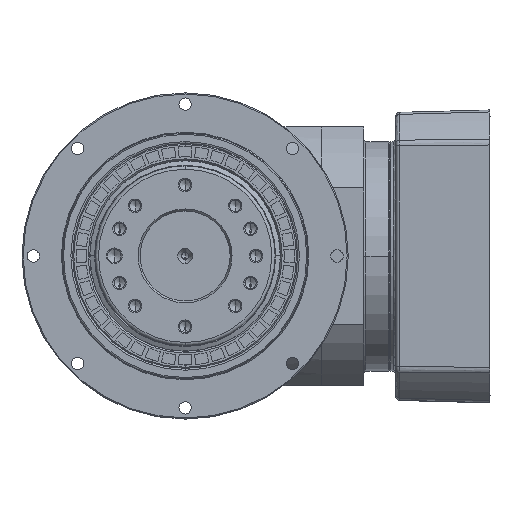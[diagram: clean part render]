
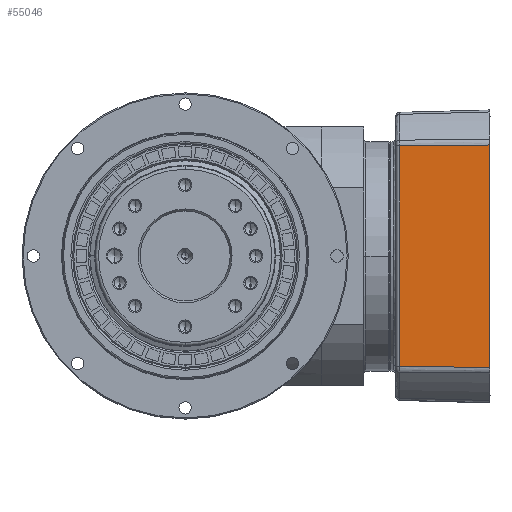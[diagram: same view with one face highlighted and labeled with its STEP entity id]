
A CAD part, top view. The second image highlights one B-rep face of the part: STEP entity #55046.
In plain terms, the highlighted planar face has unit normal (-0.026, 0, 1) as drawn and (-0.026, -1, 0) by its records, which use the part's own axes.
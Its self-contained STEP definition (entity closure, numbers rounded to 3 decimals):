
#272 = CARTESIAN_POINT ( 'NONE',  ( -46806.406, -63.951, 49.037 ) ) ;
#1729 = ORIENTED_EDGE ( 'NONE', *, *, #54278, .F. ) ;
#4623 = CARTESIAN_POINT ( 'NONE',  ( -46766.354, -65., 50.806 ) ) ;
#4978 = LINE ( 'NONE', #25571, #50593 ) ;
#10585 = DIRECTION ( 'NONE',  ( -1., 0.026, 0. ) ) ;
#14365 = LINE ( 'NONE', #18447, #44173 ) ;
#16233 = EDGE_CURVE ( 'NONE', #18012, #38096, #17315, .T. ) ;
#16302 = PLANE ( 'NONE',  #63042 ) ;
#17165 = EDGE_CURVE ( 'NONE', #26833, #32794, #14365, .T. ) ;
#17315 = LINE ( 'NONE', #28467, #47099 ) ;
#18012 = VERTEX_POINT ( 'NONE', #70256 ) ;
#18447 = CARTESIAN_POINT ( 'NONE',  ( -46766.354, -65., 50.806 ) ) ;
#20381 = EDGE_LOOP ( 'NONE', ( #39828, #22219, #1729, #44577 ) ) ;
#21577 = DIRECTION ( 'NONE',  ( 1., -0.026, 0.009 ) ) ;
#22219 = ORIENTED_EDGE ( 'NONE', *, *, #16233, .F. ) ;
#25571 = CARTESIAN_POINT ( 'NONE',  ( -46766.354, -65., -49.409 ) ) ;
#26833 = VERTEX_POINT ( 'NONE', #48970 ) ;
#28467 = CARTESIAN_POINT ( 'NONE',  ( -46806.406, -63.951, 50.806 ) ) ;
#32794 = VERTEX_POINT ( 'NONE', #36599 ) ;
#34471 = DIRECTION ( 'NONE',  ( 0., 0., 1. ) ) ;
#36599 = CARTESIAN_POINT ( 'NONE',  ( -46766.354, -65., -49.409 ) ) ;
#38096 = VERTEX_POINT ( 'NONE', #272 ) ;
#39828 = ORIENTED_EDGE ( 'NONE', *, *, #43417, .F. ) ;
#40943 = DIRECTION ( 'NONE',  ( -1., 0.026, 0.009 ) ) ;
#42411 = DIRECTION ( 'NONE',  ( 0., 0., -1. ) ) ;
#42576 = LINE ( 'NONE', #63014, #58290 ) ;
#43417 = EDGE_CURVE ( 'NONE', #38096, #26833, #42576, .T. ) ;
#44173 = VECTOR ( 'NONE', #42411, 1000. ) ;
#44577 = ORIENTED_EDGE ( 'NONE', *, *, #17165, .F. ) ;
#46225 = DIRECTION ( 'NONE',  ( 0.026, 1., 0. ) ) ;
#47099 = VECTOR ( 'NONE', #34471, 1000. ) ;
#48970 = CARTESIAN_POINT ( 'NONE',  ( -46766.354, -65., 49.409 ) ) ;
#50593 = VECTOR ( 'NONE', #40943, 1000. ) ;
#54278 = EDGE_CURVE ( 'NONE', #32794, #18012, #4978, .T. ) ;
#55046 = ADVANCED_FACE ( 'NONE', ( #67770 ), #16302, .F. ) ;
#58290 = VECTOR ( 'NONE', #21577, 1000. ) ;
#63014 = CARTESIAN_POINT ( 'NONE',  ( -46806.406, -63.951, 49.037 ) ) ;
#63042 = AXIS2_PLACEMENT_3D ( 'NONE', #4623, #46225, #10585 ) ;
#67770 = FACE_OUTER_BOUND ( 'NONE', #20381, .T. ) ;
#70256 = CARTESIAN_POINT ( 'NONE',  ( -46806.406, -63.951, -49.037 ) ) ;
